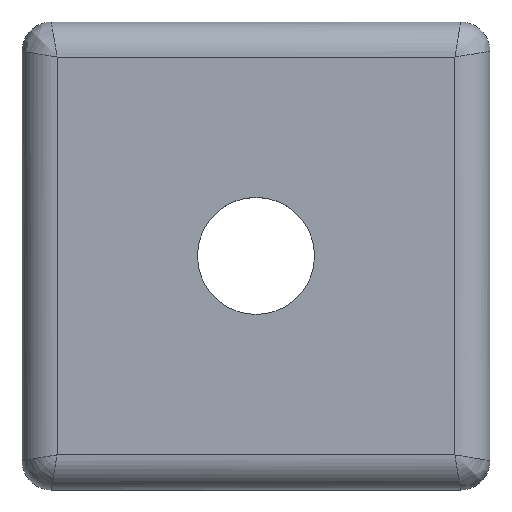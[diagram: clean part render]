
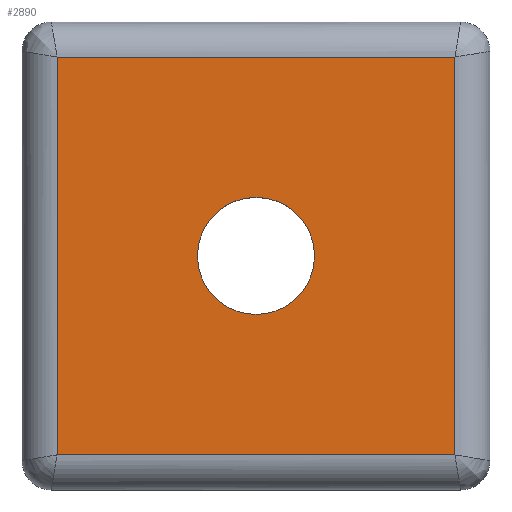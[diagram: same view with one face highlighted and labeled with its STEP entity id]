
A CAD part, top view. The second image highlights one B-rep face of the part: STEP entity #2890.
In plain terms, the highlighted planar face has unit normal (0, 0, 1).
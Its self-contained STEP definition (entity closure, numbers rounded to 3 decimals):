
#82 = LINE ( 'NONE', #1511, #710 ) ;
#141 = CARTESIAN_POINT ( 'NONE',  ( -17., -17.5, 0. ) ) ;
#253 = EDGE_CURVE ( 'NONE', #952, #843, #552, .T. ) ;
#271 = EDGE_CURVE ( 'NONE', #343, #3350, #4022, .T. ) ;
#306 = VERTEX_POINT ( 'NONE', #3516 ) ;
#343 = VERTEX_POINT ( 'NONE', #1074 ) ;
#344 = ORIENTED_EDGE ( 'NONE', *, *, #253, .T. ) ;
#383 = PLANE ( 'NONE',  #2279 ) ;
#456 = ORIENTED_EDGE ( 'NONE', *, *, #2554, .T. ) ;
#552 = CIRCLE ( 'NONE', #1698, 5. ) ;
#610 = CARTESIAN_POINT ( 'NONE',  ( 0., 0., 0. ) ) ;
#668 = CARTESIAN_POINT ( 'NONE',  ( -5., 0., 0. ) ) ;
#695 = CIRCLE ( 'NONE', #1927, 5. ) ;
#710 = VECTOR ( 'NONE', #2844, 1000. ) ;
#781 = DIRECTION ( 'NONE',  ( 0., -1., 0. ) ) ;
#843 = VERTEX_POINT ( 'NONE', #1664 ) ;
#952 = VERTEX_POINT ( 'NONE', #668 ) ;
#1074 = CARTESIAN_POINT ( 'NONE',  ( 17., 17., 0. ) ) ;
#1198 = VECTOR ( 'NONE', #1320, 1000. ) ;
#1320 = DIRECTION ( 'NONE',  ( -1., 0., 0. ) ) ;
#1511 = CARTESIAN_POINT ( 'NONE',  ( 17., -17.5, 0. ) ) ;
#1562 = ORIENTED_EDGE ( 'NONE', *, *, #4349, .T. ) ;
#1664 = CARTESIAN_POINT ( 'NONE',  ( 5., 0., 0. ) ) ;
#1666 = DIRECTION ( 'NONE',  ( 1., 0., 0. ) ) ;
#1698 = AXIS2_PLACEMENT_3D ( 'NONE', #610, #2655, #1666 ) ;
#1927 = AXIS2_PLACEMENT_3D ( 'NONE', #4323, #3682, #1992 ) ;
#1992 = DIRECTION ( 'NONE',  ( 1., 0., 0. ) ) ;
#2003 = EDGE_LOOP ( 'NONE', ( #344, #3081 ) ) ;
#2120 = CARTESIAN_POINT ( 'NONE',  ( -17.5, -17.5, 0. ) ) ;
#2230 = EDGE_LOOP ( 'NONE', ( #456, #2283, #1562, #3145 ) ) ;
#2279 = AXIS2_PLACEMENT_3D ( 'NONE', #2120, #2425, #2397 ) ;
#2283 = ORIENTED_EDGE ( 'NONE', *, *, #3667, .T. ) ;
#2397 = DIRECTION ( 'NONE',  ( 0., -1., 0. ) ) ;
#2425 = DIRECTION ( 'NONE',  ( 0., 0., 1. ) ) ;
#2486 = VECTOR ( 'NONE', #781, 1000. ) ;
#2554 = EDGE_CURVE ( 'NONE', #3350, #2706, #3599, .T. ) ;
#2655 = DIRECTION ( 'NONE',  ( 0., 0., -1. ) ) ;
#2706 = VERTEX_POINT ( 'NONE', #2968 ) ;
#2744 = EDGE_CURVE ( 'NONE', #843, #952, #695, .T. ) ;
#2844 = DIRECTION ( 'NONE',  ( 0., 1., 0. ) ) ;
#2890 = ADVANCED_FACE ( 'NONE', ( #3078, #3455 ), #383, .T. ) ;
#2968 = CARTESIAN_POINT ( 'NONE',  ( -17., -17., 0. ) ) ;
#3078 = FACE_BOUND ( 'NONE', #2003, .T. ) ;
#3081 = ORIENTED_EDGE ( 'NONE', *, *, #2744, .T. ) ;
#3145 = ORIENTED_EDGE ( 'NONE', *, *, #271, .T. ) ;
#3350 = VERTEX_POINT ( 'NONE', #3565 ) ;
#3455 = FACE_OUTER_BOUND ( 'NONE', #2230, .T. ) ;
#3516 = CARTESIAN_POINT ( 'NONE',  ( 17., -17., 0. ) ) ;
#3565 = CARTESIAN_POINT ( 'NONE',  ( -17., 17., 0. ) ) ;
#3588 = DIRECTION ( 'NONE',  ( 1., 0., 0. ) ) ;
#3599 = LINE ( 'NONE', #141, #2486 ) ;
#3667 = EDGE_CURVE ( 'NONE', #2706, #306, #4243, .T. ) ;
#3682 = DIRECTION ( 'NONE',  ( 0., 0., -1. ) ) ;
#3772 = VECTOR ( 'NONE', #3588, 1000. ) ;
#3914 = CARTESIAN_POINT ( 'NONE',  ( -17.5, -17., 0. ) ) ;
#4022 = LINE ( 'NONE', #4378, #1198 ) ;
#4243 = LINE ( 'NONE', #3914, #3772 ) ;
#4323 = CARTESIAN_POINT ( 'NONE',  ( 0., 0., 0. ) ) ;
#4349 = EDGE_CURVE ( 'NONE', #306, #343, #82, .T. ) ;
#4378 = CARTESIAN_POINT ( 'NONE',  ( -17.5, 17., 0. ) ) ;
